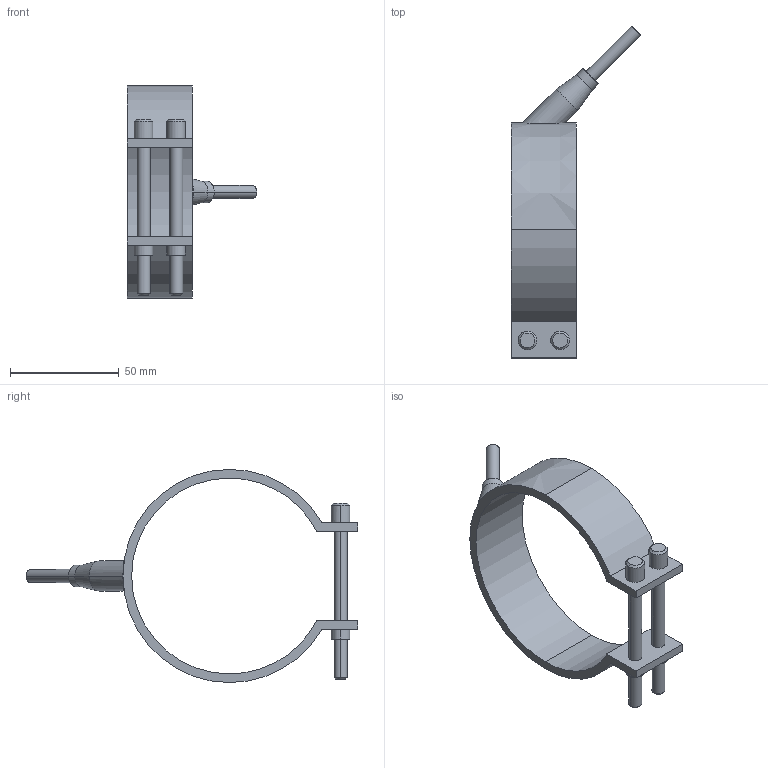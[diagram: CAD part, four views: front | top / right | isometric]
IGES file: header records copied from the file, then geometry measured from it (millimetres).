
Start section: START RECORD GO HERE.
Global section: file name: 29090030.igs; native system: DASSAULT SYSTEMES CATIA V5 R20 - www.3ds.com; preprocessor: CATIA Version 5 Release 20 ; author: Utente; organization: NB04-ASUS; date: 20210329.200051; units: millimetre
Bounding box: 59.55 x 152.55 x 98 mm (x, y, z)
Surface area: 24002.6 mm2 (no closed solid volume)
Topology: 0 solids, 0 shells, 54 faces, 246 edges, 246 vertices
Faces by surface type: revolution 38, plane 16
